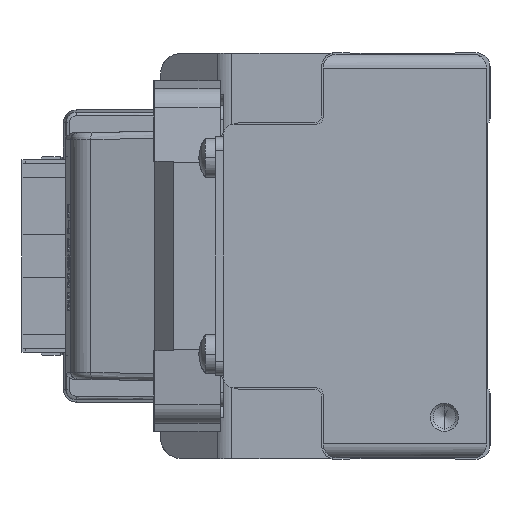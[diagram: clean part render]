
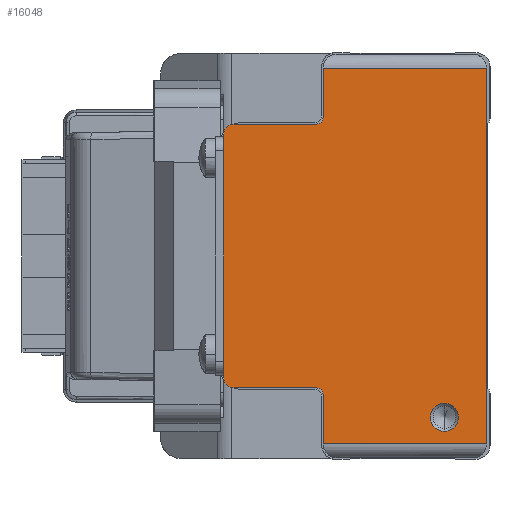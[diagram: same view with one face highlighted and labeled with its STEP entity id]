
A CAD part, left-side view. The second image highlights one B-rep face of the part: STEP entity #16048.
In plain terms, the highlighted planar face has unit normal (-1, 0, 0) as drawn and (0, 0, 1) by its records, which use the part's own axes.
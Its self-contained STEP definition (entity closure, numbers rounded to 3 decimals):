
#168 = EDGE_CURVE ( 'NONE', #17615, #35718, #7846, .T. ) ;
#500 = EDGE_CURVE ( 'NONE', #35718, #17615, #10752, .T. ) ;
#1168 = VERTEX_POINT ( 'NONE', #14063 ) ;
#1375 = EDGE_CURVE ( 'NONE', #1168, #9023, #10069, .T. ) ;
#1539 = CARTESIAN_POINT ( 'NONE',  ( 17.3, 38., 570. ) ) ;
#2148 = CARTESIAN_POINT ( 'NONE',  ( -26.8, 23.8, 570. ) ) ;
#2492 = VECTOR ( 'NONE', #13584, 1000. ) ;
#2814 = DIRECTION ( 'NONE',  ( 0., 1., 0. ) ) ;
#2855 = VERTEX_POINT ( 'NONE', #24049 ) ;
#2880 = CIRCLE ( 'NONE', #21377, 1. ) ;
#3385 = ORIENTED_EDGE ( 'NONE', *, *, #168, .T. ) ;
#4073 = CIRCLE ( 'NONE', #19811, 1.5 ) ;
#4269 = AXIS2_PLACEMENT_3D ( 'NONE', #12003, #14947, #5546 ) ;
#4333 = EDGE_CURVE ( 'NONE', #28894, #33007, #43308, .T. ) ;
#4634 = VERTEX_POINT ( 'NONE', #2148 ) ;
#5390 = DIRECTION ( 'NONE',  ( 1., 0., 0. ) ) ;
#5546 = DIRECTION ( 'NONE',  ( -1., 0., 0. ) ) ;
#6037 = CARTESIAN_POINT ( 'NONE',  ( 26.8, 24., 570. ) ) ;
#6058 = CARTESIAN_POINT ( 'NONE',  ( -18.8, 36.5, 570. ) ) ;
#6252 = CARTESIAN_POINT ( 'NONE',  ( 26.8, 0.5, 570. ) ) ;
#6780 = DIRECTION ( 'NONE',  ( 0., -1., 0. ) ) ;
#6898 = DIRECTION ( 'NONE',  ( 0., 0., 1. ) ) ;
#7846 = CIRCLE ( 'NONE', #4269, 2. ) ;
#9023 = VERTEX_POINT ( 'NONE', #9056 ) ;
#9056 = CARTESIAN_POINT ( 'NONE',  ( -18.8, 36.5, 570. ) ) ;
#9158 = VERTEX_POINT ( 'NONE', #32413 ) ;
#9621 = DIRECTION ( 'NONE',  ( 0., -1., 0. ) ) ;
#10069 = CIRCLE ( 'NONE', #39132, 1.5 ) ;
#10142 = ORIENTED_EDGE ( 'NONE', *, *, #25287, .F. ) ;
#10331 = EDGE_CURVE ( 'NONE', #29792, #4634, #35490, .T. ) ;
#10752 = CIRCLE ( 'NONE', #35569, 2. ) ;
#10810 = DIRECTION ( 'NONE',  ( 0., 0., 1. ) ) ;
#11017 = EDGE_CURVE ( 'NONE', #16080, #33007, #30355, .T. ) ;
#11507 = CARTESIAN_POINT ( 'NONE',  ( -19.8, 23.8, 570. ) ) ;
#11903 = CARTESIAN_POINT ( 'NONE',  ( -21., 6.5, 570. ) ) ;
#11969 = ORIENTED_EDGE ( 'NONE', *, *, #17411, .T. ) ;
#12003 = CARTESIAN_POINT ( 'NONE',  ( -23., 6.5, 570. ) ) ;
#12200 = VECTOR ( 'NONE', #9621, 1000. ) ;
#13118 = ORIENTED_EDGE ( 'NONE', *, *, #14805, .T. ) ;
#13415 = VECTOR ( 'NONE', #2814, 1000. ) ;
#13508 = ORIENTED_EDGE ( 'NONE', *, *, #1375, .T. ) ;
#13584 = DIRECTION ( 'NONE',  ( 1., 0., 0. ) ) ;
#13684 = EDGE_CURVE ( 'NONE', #4634, #28894, #18323, .T. ) ;
#13884 = EDGE_CURVE ( 'NONE', #16080, #9158, #43735, .T. ) ;
#14063 = CARTESIAN_POINT ( 'NONE',  ( -17.3, 38., 570. ) ) ;
#14125 = ORIENTED_EDGE ( 'NONE', *, *, #20102, .F. ) ;
#14533 = CARTESIAN_POINT ( 'NONE',  ( -26.8, 24., 570. ) ) ;
#14556 = DIRECTION ( 'NONE',  ( 0., 0., 1. ) ) ;
#14805 = EDGE_CURVE ( 'NONE', #9023, #2855, #19481, .T. ) ;
#14947 = DIRECTION ( 'NONE',  ( 0., 0., -1. ) ) ;
#15090 = DIRECTION ( 'NONE',  ( 0., 0., 1. ) ) ;
#15102 = DIRECTION ( 'NONE',  ( 0., 0., -1. ) ) ;
#15142 = CARTESIAN_POINT ( 'NONE',  ( 18.8, 24.8, 570. ) ) ;
#16048 = ADVANCED_FACE ( 'NONE', ( #34654, #28027 ), #37546, .T. ) ;
#16080 = VERTEX_POINT ( 'NONE', #22171 ) ;
#16729 = CARTESIAN_POINT ( 'NONE',  ( -26.8, 0.5, 570. ) ) ;
#16926 = ORIENTED_EDGE ( 'NONE', *, *, #13684, .T. ) ;
#17392 = CARTESIAN_POINT ( 'NONE',  ( -25., 6.5, 570. ) ) ;
#17411 = EDGE_CURVE ( 'NONE', #26892, #38727, #4073, .T. ) ;
#17615 = VERTEX_POINT ( 'NONE', #17392 ) ;
#18222 = DIRECTION ( 'NONE',  ( 1., 0., 0. ) ) ;
#18323 = LINE ( 'NONE', #14533, #35462 ) ;
#18625 = EDGE_LOOP ( 'NONE', ( #3385, #34832 ) ) ;
#19481 = LINE ( 'NONE', #6058, #12200 ) ;
#19811 = AXIS2_PLACEMENT_3D ( 'NONE', #24851, #15090, #18222 ) ;
#20089 = DIRECTION ( 'NONE',  ( -1., 0., 0. ) ) ;
#20102 = EDGE_CURVE ( 'NONE', #29792, #2855, #2880, .T. ) ;
#20643 = VERTEX_POINT ( 'NONE', #15142 ) ;
#21377 = AXIS2_PLACEMENT_3D ( 'NONE', #22100, #28351, #5390 ) ;
#21540 = CARTESIAN_POINT ( 'NONE',  ( -23., 6.5, 570. ) ) ;
#22100 = CARTESIAN_POINT ( 'NONE',  ( -19.8, 24.8, 570. ) ) ;
#22171 = CARTESIAN_POINT ( 'NONE',  ( 26.8, 23.8, 570. ) ) ;
#22733 = EDGE_LOOP ( 'NONE', ( #13118, #14125, #24868, #16926, #39075, #41000, #39225, #10142, #35137, #11969, #33196, #13508 ) ) ;
#22886 = LINE ( 'NONE', #39258, #13415 ) ;
#23968 = VECTOR ( 'NONE', #26958, 1000. ) ;
#24049 = CARTESIAN_POINT ( 'NONE',  ( -18.8, 24.8, 570. ) ) ;
#24175 = VECTOR ( 'NONE', #20089, 1000. ) ;
#24323 = CARTESIAN_POINT ( 'NONE',  ( 19.8, 24.8, 570. ) ) ;
#24592 = CARTESIAN_POINT ( 'NONE',  ( -17.3, 36.5, 570. ) ) ;
#24851 = CARTESIAN_POINT ( 'NONE',  ( 17.3, 36.5, 570. ) ) ;
#24868 = ORIENTED_EDGE ( 'NONE', *, *, #10331, .T. ) ;
#25287 = EDGE_CURVE ( 'NONE', #20643, #9158, #31754, .T. ) ;
#25817 = LINE ( 'NONE', #1539, #27221 ) ;
#26892 = VERTEX_POINT ( 'NONE', #29891 ) ;
#26958 = DIRECTION ( 'NONE',  ( 0., -1., 0. ) ) ;
#27067 = DIRECTION ( 'NONE',  ( 1., 0., 0. ) ) ;
#27201 = EDGE_CURVE ( 'NONE', #20643, #26892, #22886, .T. ) ;
#27221 = VECTOR ( 'NONE', #28537, 1000. ) ;
#28027 = FACE_OUTER_BOUND ( 'NONE', #22733, .T. ) ;
#28351 = DIRECTION ( 'NONE',  ( 0., 0., 1. ) ) ;
#28537 = DIRECTION ( 'NONE',  ( -1., 0., 0. ) ) ;
#28673 = DIRECTION ( 'NONE',  ( -1., 0., 0. ) ) ;
#28782 = CARTESIAN_POINT ( 'NONE',  ( -26.8, 0.5, 570. ) ) ;
#28894 = VERTEX_POINT ( 'NONE', #28782 ) ;
#29792 = VERTEX_POINT ( 'NONE', #38250 ) ;
#29891 = CARTESIAN_POINT ( 'NONE',  ( 18.8, 36.5, 570. ) ) ;
#30102 = CARTESIAN_POINT ( 'NONE',  ( 26.8, 23.8, 570. ) ) ;
#30355 = LINE ( 'NONE', #6037, #23968 ) ;
#31566 = DIRECTION ( 'NONE',  ( -1., 0., 0. ) ) ;
#31754 = CIRCLE ( 'NONE', #37368, 1. ) ;
#32413 = CARTESIAN_POINT ( 'NONE',  ( 19.8, 23.8, 570. ) ) ;
#33007 = VERTEX_POINT ( 'NONE', #6252 ) ;
#33196 = ORIENTED_EDGE ( 'NONE', *, *, #40195, .T. ) ;
#33504 = CARTESIAN_POINT ( 'NONE',  ( 17.3, 38., 570. ) ) ;
#34654 = FACE_BOUND ( 'NONE', #18625, .T. ) ;
#34832 = ORIENTED_EDGE ( 'NONE', *, *, #500, .T. ) ;
#35137 = ORIENTED_EDGE ( 'NONE', *, *, #27201, .T. ) ;
#35462 = VECTOR ( 'NONE', #6780, 1000. ) ;
#35490 = LINE ( 'NONE', #11507, #39525 ) ;
#35569 = AXIS2_PLACEMENT_3D ( 'NONE', #21540, #15102, #28673 ) ;
#35718 = VERTEX_POINT ( 'NONE', #11903 ) ;
#37103 = DIRECTION ( 'NONE',  ( 1., 0., 0. ) ) ;
#37368 = AXIS2_PLACEMENT_3D ( 'NONE', #24323, #14556, #38020 ) ;
#37546 = PLANE ( 'NONE',  #39379 ) ;
#37752 = CARTESIAN_POINT ( 'NONE',  ( -26.8, 21.8, 570. ) ) ;
#38020 = DIRECTION ( 'NONE',  ( 1., 0., 0. ) ) ;
#38250 = CARTESIAN_POINT ( 'NONE',  ( -19.8, 23.8, 570. ) ) ;
#38727 = VERTEX_POINT ( 'NONE', #33504 ) ;
#39075 = ORIENTED_EDGE ( 'NONE', *, *, #4333, .T. ) ;
#39132 = AXIS2_PLACEMENT_3D ( 'NONE', #24592, #10810, #27067 ) ;
#39225 = ORIENTED_EDGE ( 'NONE', *, *, #13884, .T. ) ;
#39258 = CARTESIAN_POINT ( 'NONE',  ( 18.8, 24.8, 570. ) ) ;
#39379 = AXIS2_PLACEMENT_3D ( 'NONE', #37752, #6898, #37103 ) ;
#39525 = VECTOR ( 'NONE', #31566, 1000. ) ;
#40195 = EDGE_CURVE ( 'NONE', #38727, #1168, #25817, .T. ) ;
#41000 = ORIENTED_EDGE ( 'NONE', *, *, #11017, .F. ) ;
#43308 = LINE ( 'NONE', #16729, #2492 ) ;
#43735 = LINE ( 'NONE', #30102, #24175 ) ;
